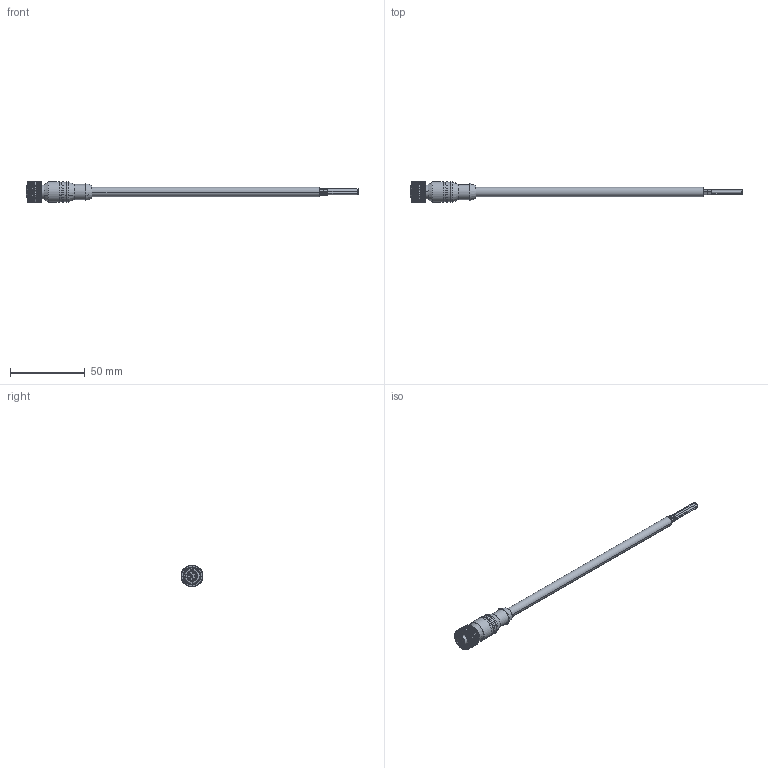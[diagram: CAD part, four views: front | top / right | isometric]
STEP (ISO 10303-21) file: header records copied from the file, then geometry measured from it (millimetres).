
FILE_DESCRIPTION (( 'STEP AP214' ), '1' );
FILE_NAME ('MACB-6FP-ZZ.STEP', '2014-09-02T11:18:34', ( 'Mencom User' ), ( 'Hewlett-Packard Company' ), 'SwSTEP 2.0', 'SolidWorks 2014', '' );
FILE_SCHEMA (( 'AUTOMOTIVE_DESIGN' ));
Length unit declared in the file: inch
Products named in the file (1): MACB-6FP-ZZ
Bounding box: 222.2 x 14.55 x 14.6 mm (x, y, z)
Volume: 8816.4 mm3; surface area: 8378.2 mm2
Topology: 21 solids, 21 shells, 869 faces, 2397 edges, 1589 vertices
Faces by surface type: cylinder 526, plane 267, bspline 40, torus 18, cone 18
Entity records: 43018 total; most frequent: CARTESIAN_POINT 10729, ORIENTED_EDGE 4794, DIRECTION 3713, EDGE_CURVE 2397, VERTEX_POINT 1589, AXIS2_PLACEMENT_3D 1417, EDGE_LOOP 912, B_SPLINE_CURVE_WITH_KNOTS 912
